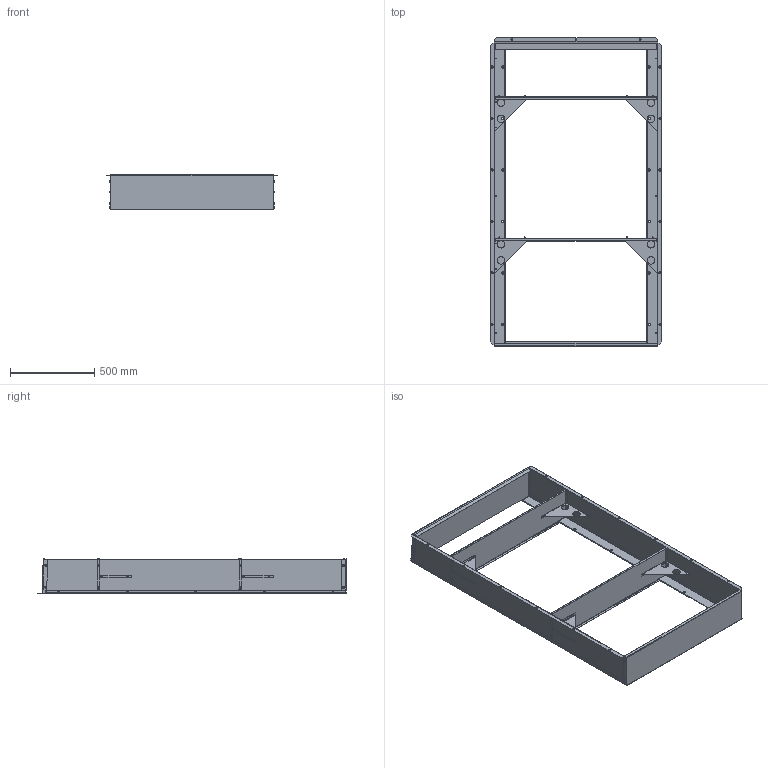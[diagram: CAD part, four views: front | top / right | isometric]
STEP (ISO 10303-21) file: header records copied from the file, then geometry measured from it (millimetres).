
FILE_DESCRIPTION (( 'STEP AP214' ), '1' );
FILE_NAME ('WWC3-X.STEP', '2016-07-15T20:16:55', ( 'BMC' ), ( 'Bard Manufacturing Co., Inc.' ), 'SwSTEP 2.0', 'SolidWorks 2016', '' );
FILE_SCHEMA (( 'AUTOMOTIVE_DESIGN' ));
Length unit declared in the file: inch
Products named in the file (15): 507-272_uncompressed insulation; 5021-1340_uncompressed; 106-272; 521-436; 120-436; 1012-085; 501-515; 100-515; 501-514; 104-1197; 100-514; 1012-086; 140-275; 126-367; WWC3-X
Assembly tree (59 placements, depth 3):
  WWC3-X
    126-367
    140-275  x4
    1012-086  x31
    501-514
      100-514
      104-1197
      1012-086  x5
    501-515
      100-515
      104-1197
      1012-086  x5
    1012-085
    521-436  x2
      120-436
    507-272_uncompressed insulation
      106-272
      5021-1340_uncompressed
Bounding box: 1015.79 x 1827.85 x 208.88 mm (x, y, z)
Volume: 4777595.4 mm3; surface area: 5207748.4 mm2
Topology: 55 solids, 55 shells, 1396 faces, 3282 edges, 2038 vertices
Faces by surface type: plane 737, cylinder 574, cone 84, bspline 1
Entity records: 15506 total; most frequent: DIRECTION 2694, CARTESIAN_POINT 2493, ORIENTED_EDGE 2326, EDGE_CURVE 1163, AXIS2_PLACEMENT_3D 1007, VERTEX_POINT 724, VECTOR 680, LINE 680
